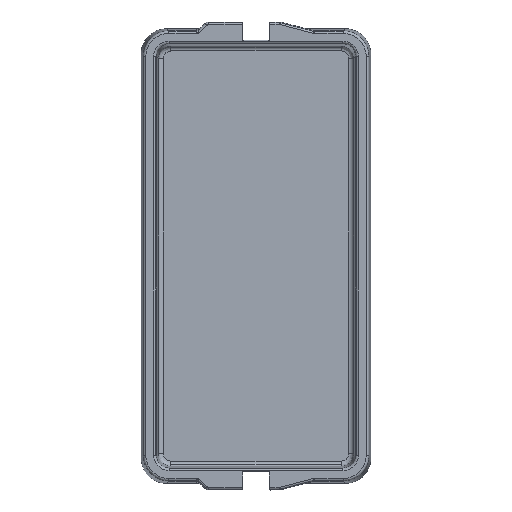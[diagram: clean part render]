
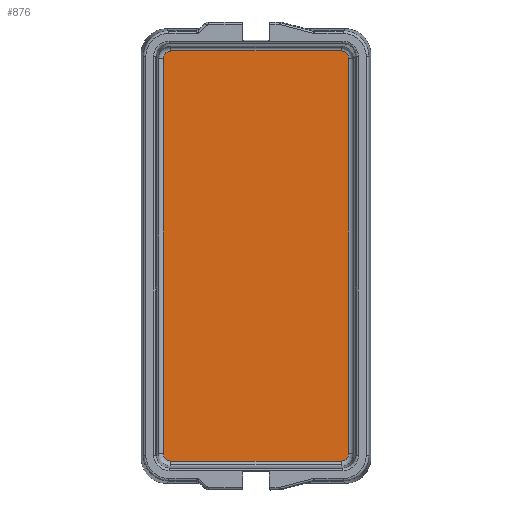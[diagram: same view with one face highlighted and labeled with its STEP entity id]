
A CAD part, top view. The second image highlights one B-rep face of the part: STEP entity #876.
In plain terms, the highlighted planar face has unit normal (0, 0, 1).
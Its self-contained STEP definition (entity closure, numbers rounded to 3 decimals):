
#876=ADVANCED_FACE('',(#1796),#1797,.T.);
#1796=FACE_OUTER_BOUND('',#6840,.T.);
#1797=PLANE('',#6841);
#6840=EDGE_LOOP('',(#9367,#9368,#9369,#9370,#9371,#9372,#9373,#9374));
#6841=AXIS2_PLACEMENT_3D('',#9375,#9376,#9377);
#9367=ORIENTED_EDGE('',*,*,#10786,.F.);
#9368=ORIENTED_EDGE('',*,*,#10780,.F.);
#9369=ORIENTED_EDGE('',*,*,#10784,.F.);
#9370=ORIENTED_EDGE('',*,*,#10789,.F.);
#9371=ORIENTED_EDGE('',*,*,#10793,.F.);
#9372=ORIENTED_EDGE('',*,*,#10310,.F.);
#9373=ORIENTED_EDGE('',*,*,#10303,.F.);
#9374=ORIENTED_EDGE('',*,*,#10314,.F.);
#9375=CARTESIAN_POINT('',(0.,229.0,2.5));
#9376=DIRECTION('',(0.,0.,1.0));
#9377=DIRECTION('',(1.0,0.0,0.));
#10303=EDGE_CURVE('',#11794,#11796,#11797,.T.);
#10310=EDGE_CURVE('',#11796,#11804,#11805,.T.);
#10314=EDGE_CURVE('',#11808,#11794,#11810,.T.);
#10780=EDGE_CURVE('',#12378,#12380,#12381,.T.);
#10784=EDGE_CURVE('',#12384,#12378,#12386,.T.);
#10786=EDGE_CURVE('',#12380,#11808,#12388,.T.);
#10789=EDGE_CURVE('',#12390,#12384,#12392,.T.);
#10793=EDGE_CURVE('',#11804,#12390,#12396,.T.);
#11794=VERTEX_POINT('',#13715);
#11796=VERTEX_POINT('',#13717);
#11797=LINE('',#13718,#13719);
#11804=VERTEX_POINT('',#13727);
#11805=ELLIPSE('',#13728,7.509,7.5);
#11808=VERTEX_POINT('',#13731);
#11810=ELLIPSE('',#13733,7.509,7.5);
#12378=VERTEX_POINT('',#14592);
#12380=VERTEX_POINT('',#14594);
#12381=ELLIPSE('',#14595,7.509,7.5);
#12384=VERTEX_POINT('',#14598);
#12386=LINE('',#14600,#14601);
#12388=LINE('',#14603,#14604);
#12390=VERTEX_POINT('',#14606);
#12392=ELLIPSE('',#14608,7.509,7.5);
#12396=LINE('',#14612,#14613);
#13715=CARTESIAN_POINT('',(90.719,422.224,2.5));
#13717=CARTESIAN_POINT('',(90.719,35.776,2.5));
#13718=CARTESIAN_POINT('',(90.719,125.135,2.5));
#13719=VECTOR('',#15664,10.0);
#13727=CARTESIAN_POINT('',(83.224,28.281,2.5));
#13728=AXIS2_PLACEMENT_3D('',#15675,#15676,#15677);
#13731=CARTESIAN_POINT('',(83.224,429.719,2.5));
#13733=AXIS2_PLACEMENT_3D('',#15684,#15685,#15686);
#14592=CARTESIAN_POINT('',(-90.719,422.224,2.5));
#14594=CARTESIAN_POINT('',(-83.224,429.719,2.5));
#14595=AXIS2_PLACEMENT_3D('',#16358,#16359,#16360);
#14598=CARTESIAN_POINT('',(-90.719,35.776,2.5));
#14600=CARTESIAN_POINT('',(-90.719,332.865,2.5));
#14601=VECTOR('',#16367,10.0);
#14603=CARTESIAN_POINT('',(48.865,429.719,2.5));
#14604=VECTOR('',#16368,10.0);
#14606=CARTESIAN_POINT('',(-83.224,28.281,2.5));
#14608=AXIS2_PLACEMENT_3D('',#16372,#16373,#16374);
#14612=CARTESIAN_POINT('',(-48.865,28.281,2.5));
#14613=VECTOR('',#16378,10.0);
#15664=DIRECTION('',(0.,-1.0,0.0));
#15675=CARTESIAN_POINT('',(83.215,35.785,2.5));
#15676=DIRECTION('',(0.,0.,-1.0));
#15677=DIRECTION('',(0.707,-0.707,0.));
#15684=CARTESIAN_POINT('',(83.215,422.215,2.5));
#15685=DIRECTION('',(0.,0.,-1.0));
#15686=DIRECTION('',(0.707,0.707,0.));
#16358=CARTESIAN_POINT('',(-83.215,422.215,2.5));
#16359=DIRECTION('',(0.0,0.,-1.0));
#16360=DIRECTION('',(-0.707,0.707,0.));
#16367=DIRECTION('',(0.,1.0,0.0));
#16368=DIRECTION('',(1.0,0.,0.));
#16372=CARTESIAN_POINT('',(-83.215,35.785,2.5));
#16373=DIRECTION('',(0.,0.,-1.0));
#16374=DIRECTION('',(-0.707,-0.707,0.));
#16378=DIRECTION('',(-1.0,0.,0.));
